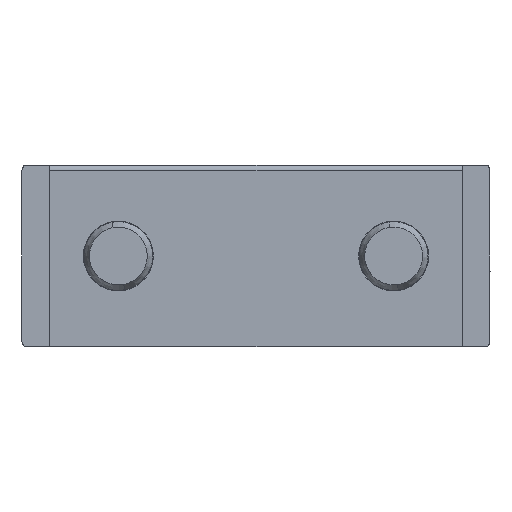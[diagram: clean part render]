
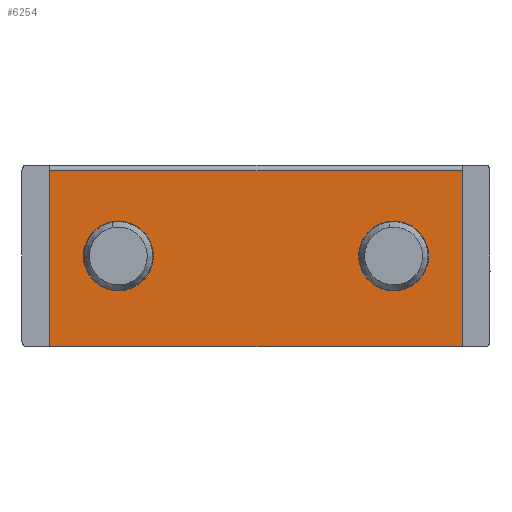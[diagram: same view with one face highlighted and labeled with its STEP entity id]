
A CAD part, front view. The second image highlights one B-rep face of the part: STEP entity #6254.
In plain terms, the highlighted planar face has unit normal (0, -1, 0).
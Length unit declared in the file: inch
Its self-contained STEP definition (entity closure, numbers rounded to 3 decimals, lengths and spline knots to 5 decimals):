
#9 = VERTEX_POINT ( 'NONE', #6069 ) ;
#239 = AXIS2_PLACEMENT_3D ( 'NONE', #1412, #3167, #259 ) ;
#259 = DIRECTION ( 'NONE',  ( 0., 0., -1. ) ) ;
#494 = LINE ( 'NONE', #5161, #679 ) ;
#537 = VECTOR ( 'NONE', #3199, 39.37008 ) ;
#565 = DIRECTION ( 'NONE',  ( 0., 0., -1. ) ) ;
#576 = ORIENTED_EDGE ( 'NONE', *, *, #1926, .F. ) ;
#679 = VECTOR ( 'NONE', #3471, 39.37008 ) ;
#692 = DIRECTION ( 'NONE',  ( 0., 0., 1. ) ) ;
#847 = CARTESIAN_POINT ( 'NONE',  ( 0.05, 0., -0.33 ) ) ;
#912 = CARTESIAN_POINT ( 'NONE',  ( 0.175, 0., -0.1015 ) ) ;
#1098 = CIRCLE ( 'NONE', #239, 0.0635 ) ;
#1180 = CARTESIAN_POINT ( 'NONE',  ( 0.175, 0., -0.165 ) ) ;
#1412 = CARTESIAN_POINT ( 'NONE',  ( 0.175, 0., -0.165 ) ) ;
#1424 = ORIENTED_EDGE ( 'NONE', *, *, #2482, .T. ) ;
#1626 = CARTESIAN_POINT ( 'NONE',  ( 0.675, 0., -0.165 ) ) ;
#1634 = DIRECTION ( 'NONE',  ( 0., 0., 1. ) ) ;
#1740 = ORIENTED_EDGE ( 'NONE', *, *, #4514, .F. ) ;
#1924 = DIRECTION ( 'NONE',  ( 0., -1., 0. ) ) ;
#1926 = EDGE_CURVE ( 'NONE', #6152, #4291, #1098, .T. ) ;
#2012 = CARTESIAN_POINT ( 'NONE',  ( 0.675, 0., -0.1015 ) ) ;
#2039 = VERTEX_POINT ( 'NONE', #3581 ) ;
#2199 = CIRCLE ( 'NONE', #4637, 0.0635 ) ;
#2421 = CARTESIAN_POINT ( 'NONE',  ( 0.675, 0., -0.165 ) ) ;
#2461 = FACE_BOUND ( 'NONE', #4175, .T. ) ;
#2482 = EDGE_CURVE ( 'NONE', #5538, #6193, #5059, .T. ) ;
#2496 = PLANE ( 'NONE',  #2504 ) ;
#2504 = AXIS2_PLACEMENT_3D ( 'NONE', #4314, #4819, #692 ) ;
#2664 = CARTESIAN_POINT ( 'NONE',  ( 0.05, 0., -0.33 ) ) ;
#2791 = ORIENTED_EDGE ( 'NONE', *, *, #6342, .F. ) ;
#3167 = DIRECTION ( 'NONE',  ( 0., -1., 0. ) ) ;
#3199 = DIRECTION ( 'NONE',  ( 0., 0., -1. ) ) ;
#3288 = EDGE_LOOP ( 'NONE', ( #1740, #5173, #1424, #7136 ) ) ;
#3378 = DIRECTION ( 'NONE',  ( -1., 0., 0. ) ) ;
#3471 = DIRECTION ( 'NONE',  ( -1., 0., 0. ) ) ;
#3581 = CARTESIAN_POINT ( 'NONE',  ( 0.675, 0., -0.2285 ) ) ;
#3796 = VERTEX_POINT ( 'NONE', #847 ) ;
#3884 = CARTESIAN_POINT ( 'NONE',  ( 0.8, 0., -0.33 ) ) ;
#4175 = EDGE_LOOP ( 'NONE', ( #576, #6996 ) ) ;
#4291 = VERTEX_POINT ( 'NONE', #912 ) ;
#4314 = CARTESIAN_POINT ( 'NONE',  ( 0.85, 0., -0.33 ) ) ;
#4382 = AXIS2_PLACEMENT_3D ( 'NONE', #1180, #4612, #565 ) ;
#4514 = EDGE_CURVE ( 'NONE', #9, #3796, #494, .T. ) ;
#4564 = AXIS2_PLACEMENT_3D ( 'NONE', #2421, #1924, #4743 ) ;
#4590 = VERTEX_POINT ( 'NONE', #2012 ) ;
#4597 = CARTESIAN_POINT ( 'NONE',  ( 0.85, 0., -0.01 ) ) ;
#4612 = DIRECTION ( 'NONE',  ( 0., -1., 0. ) ) ;
#4637 = AXIS2_PLACEMENT_3D ( 'NONE', #1626, #7475, #6364 ) ;
#4653 = ORIENTED_EDGE ( 'NONE', *, *, #7103, .F. ) ;
#4669 = CARTESIAN_POINT ( 'NONE',  ( 0.175, 0., -0.2285 ) ) ;
#4743 = DIRECTION ( 'NONE',  ( 0., 0., -1. ) ) ;
#4819 = DIRECTION ( 'NONE',  ( 0., 1., 0. ) ) ;
#4858 = FACE_BOUND ( 'NONE', #5324, .T. ) ;
#5059 = LINE ( 'NONE', #4597, #5383 ) ;
#5125 = CIRCLE ( 'NONE', #4382, 0.0635 ) ;
#5161 = CARTESIAN_POINT ( 'NONE',  ( 0.85, 0., -0.33 ) ) ;
#5171 = CARTESIAN_POINT ( 'NONE',  ( 0.05, 0., -0.01 ) ) ;
#5173 = ORIENTED_EDGE ( 'NONE', *, *, #5838, .T. ) ;
#5299 = VECTOR ( 'NONE', #1634, 39.37008 ) ;
#5324 = EDGE_LOOP ( 'NONE', ( #4653, #2791 ) ) ;
#5383 = VECTOR ( 'NONE', #3378, 39.37008 ) ;
#5538 = VERTEX_POINT ( 'NONE', #7066 ) ;
#5655 = EDGE_CURVE ( 'NONE', #6193, #3796, #7329, .T. ) ;
#5838 = EDGE_CURVE ( 'NONE', #9, #5538, #6827, .T. ) ;
#6069 = CARTESIAN_POINT ( 'NONE',  ( 0.8, 0., -0.33 ) ) ;
#6152 = VERTEX_POINT ( 'NONE', #4669 ) ;
#6154 = CIRCLE ( 'NONE', #4564, 0.0635 ) ;
#6193 = VERTEX_POINT ( 'NONE', #5171 ) ;
#6254 = ADVANCED_FACE ( 'NONE', ( #4858, #2461, #7194 ), #2496, .F. ) ;
#6342 = EDGE_CURVE ( 'NONE', #4590, #2039, #6154, .T. ) ;
#6364 = DIRECTION ( 'NONE',  ( 0., 0., -1. ) ) ;
#6768 = EDGE_CURVE ( 'NONE', #4291, #6152, #5125, .T. ) ;
#6827 = LINE ( 'NONE', #3884, #5299 ) ;
#6996 = ORIENTED_EDGE ( 'NONE', *, *, #6768, .F. ) ;
#7066 = CARTESIAN_POINT ( 'NONE',  ( 0.8, 0., -0.01 ) ) ;
#7103 = EDGE_CURVE ( 'NONE', #2039, #4590, #2199, .T. ) ;
#7136 = ORIENTED_EDGE ( 'NONE', *, *, #5655, .T. ) ;
#7194 = FACE_OUTER_BOUND ( 'NONE', #3288, .T. ) ;
#7329 = LINE ( 'NONE', #2664, #537 ) ;
#7475 = DIRECTION ( 'NONE',  ( 0., -1., 0. ) ) ;
